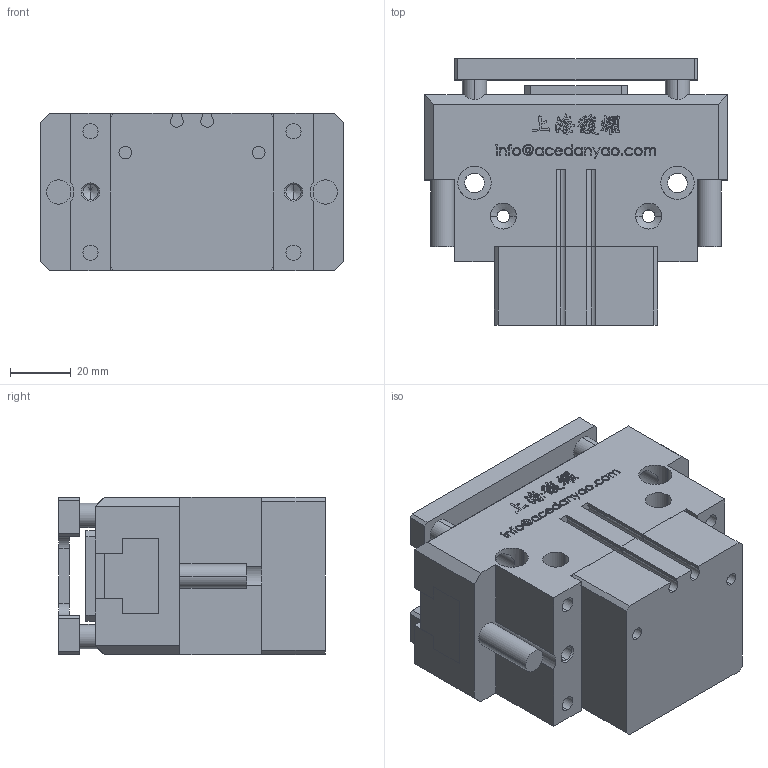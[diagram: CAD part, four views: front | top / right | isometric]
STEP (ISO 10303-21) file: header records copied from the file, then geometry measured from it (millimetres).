
FILE_DESCRIPTION (( 'STEP AP203' ), '1' );
FILE_NAME ('OPP2-100-C2-P-MC&MA-原始檔-組合-W106.04.19.STEP', '2017-04-19T02:07:05', ( 'DanyaoCAD' ), ( '' ), 'SwSTEP 2.0', 'SolidWorks 2016', '' );
FILE_SCHEMA (( 'CONFIG_CONTROL_DESIGN' ));
Length unit declared in the file: millimetre
Products named in the file (6): OPP2-100-C2-P-MC&MA-原始檔-組合-W106.04.19; Fondello; Corpo; Griffa; Piattello; Coperchio
Assembly tree (6 placements, depth 2):
  OPP2-100-C2-P-MC&MA-原始檔-組合-W106.04.19
    Fondello
    Corpo
    Griffa  x2
    Piattello
    Coperchio
Bounding box: 100 x 88 x 52 mm (x, y, z)
Volume: 308633.6 mm3; surface area: 75861 mm2
Topology: 6 solids, 6 shells, 1091 faces, 3015 edges, 1986 vertices
Faces by surface type: bspline 640, plane 292, cylinder 119, cone 40
Entity records: 51104 total; most frequent: CARTESIAN_POINT 27630, ORIENTED_EDGE 5852, EDGE_CURVE 2926, DIRECTION 2702, VERTEX_POINT 1938, LINE 1386, VECTOR 1386, B_SPLINE_CURVE_WITH_KNOTS 1304
